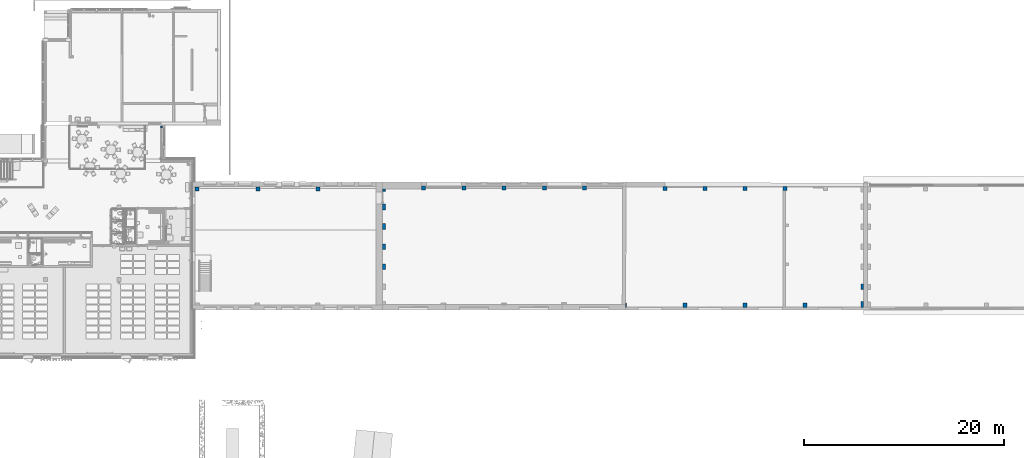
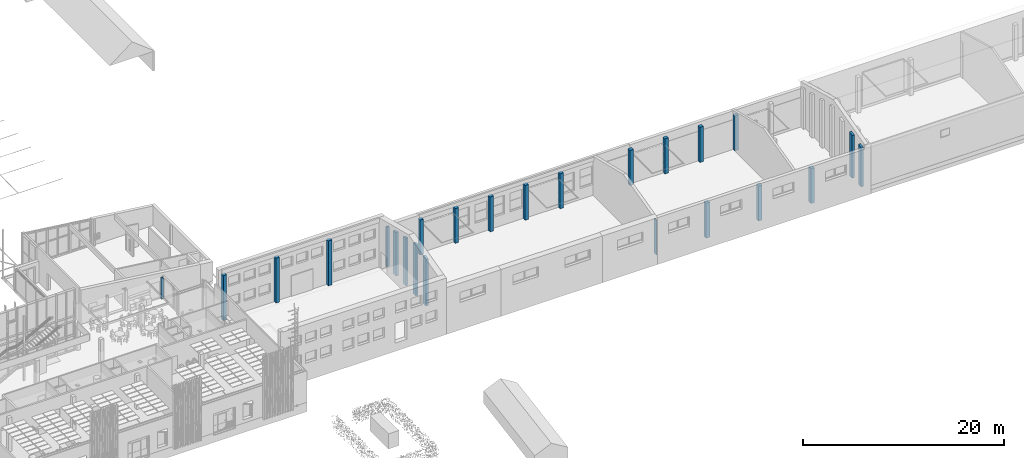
# One storey, part 20 of 301: 24 columns.
"""IFC2X3 building model written with IfcOpenShell, lengths in millimetres."""

from ifc_helpers import new_model, entity, si_unit, converted_unit, derived_unit, money_unit, direction, frame, origin_with_axes, place, context, subcontext, project, spatial, faceted_brep, material, type_object, element, save


model = new_model("IFC2X3")

# Units and contexts
model_context = context("Model", 3, precision=0.01, world=origin_with_axes(), true_north=direction((0.0, 1.0)))
body_context = subcontext(model_context, "Body", "Model", "MODEL_VIEW")
ifc_project = project(units=[si_unit("LENGTHUNIT", "METRE", prefix="MILLI"), si_unit("AREAUNIT", "SQUARE_METRE"), si_unit("VOLUMEUNIT", "CUBIC_METRE"), converted_unit("PLANEANGLEUNIT", "DEGREE", entity("IfcPlaneAngleMeasure", 0.0174532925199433), si_unit("PLANEANGLEUNIT", "RADIAN"), dimensions=[0, 0, 0, 0, 0, 0, 0]), money_unit("EUR"), converted_unit("TIMEUNIT", "Year", entity("IfcTimeMeasure", 31557600.0), si_unit("TIMEUNIT", "SECOND"), dimensions=[0, 0, 1, 0, 0, 0, 0]), si_unit("MASSUNIT", "GRAM", prefix="KILO"), si_unit("THERMODYNAMICTEMPERATUREUNIT", "DEGREE_CELSIUS"), si_unit("LUMINOUSINTENSITYUNIT", "LUMEN"), si_unit("ENERGYUNIT", "JOULE", prefix="MEGA"), derived_unit("THERMALCONDUCTANCEUNIT", [(si_unit("POWERUNIT", "WATT"), 1), (si_unit("LENGTHUNIT", "METRE"), -1), (si_unit("THERMODYNAMICTEMPERATUREUNIT", "KELVIN"), -1)]), derived_unit("SPECIFICHEATCAPACITYUNIT", [(si_unit("ENERGYUNIT", "JOULE"), 1), (si_unit("MASSUNIT", "GRAM", prefix="KILO"), -1), (si_unit("THERMODYNAMICTEMPERATUREUNIT", "KELVIN"), -1)]), derived_unit("MASSDENSITYUNIT", [(si_unit("MASSUNIT", "GRAM", prefix="KILO"), 1), (si_unit("VOLUMEUNIT", "CUBIC_METRE"), -1)])], contexts=[model_context])

# Site, building, storey
site_placement = place(None, frame((0.0, 0.0, 8650.0), z_axis=(0.0, 0.0, 1.0), x_axis=(1.0, 0.0, 0.0)))
site = spatial("IfcSite", under=ifc_project, at=site_placement, Name="43301:001:0844", CompositionType="ELEMENT")
building_placement = place(site_placement, origin_with_axes())
building = spatial("IfcBuilding", under=site, at=building_placement, Name="Kuressaare Ametikooli tuulikute mehaanikute õppekorpus", CompositionType="ELEMENT")
storey_placement = place(building_placement, origin_with_axes())
storey = spatial("IfcBuildingStorey", under=building, at=storey_placement, Name="1.korrus", CompositionType="ELEMENT", Elevation=0.0)

# Columns
ifc_material_1 = material(Name="Metall - Teras")
column_type_1 = type_object("IfcColumnType", Name="Metall - Teras 200 x 200", PredefinedType="NOTDEFINED")
column_1_placement = place(storey_placement, frame((130176.1858754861, 31778.82728576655, 0.0), z_axis=(0.0, 0.0, 1.0), x_axis=(1.0, 0.0, 0.0)))
element("IfcColumn", 1, at=column_1_placement, inside=storey, type_object=column_type_1, material=ifc_material_1, context=body_context, shape_type="Brep", body=[
    faceted_brep([(-99.99999999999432, -99.99999999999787, 2579.999999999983), (-99.99999999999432, -99.99999999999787, 0.0), (99.99999999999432, -99.99999999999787, 0.0), (99.99999999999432, -99.99999999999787, 2579.999999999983), (-99.99999999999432, 100.0000000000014, 2579.999999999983), (-99.99999999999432, 100.0000000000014, 0.0), (99.99999999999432, 100.0000000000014, 0.0), (99.99999999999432, 100.0000000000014, 2579.999999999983)], [[[0, 1, 2, 3]], [[4, 5, 1, 0]], [[2, 1, 5, 6]], [[3, 2, 6, 7]], [[4, 0, 3, 7]], [[7, 6, 5, 4]]]),
])
ifc_material_2 = material(Name="GENEERILINE - KONSTRUKTRIOON")
column_type_2 = type_object("IfcColumnType", Name="GENEERILINE - KONSTRUKTRIOON 400 x 400", PredefinedType="NOTDEFINED")
for number, where, z_axis, x_axis in (
    (2, (133734.9464416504, 25612.98866102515, 0.0), (0.0, 0.0, 1.0), (1.0, 0.0, 0.0)),
    (3, (139791.1205438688, 25612.98866102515, 0.0), (0.0, 0.0, 1.0), (1.0, 0.0, 0.0)),
    (4, (145800.0094228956, 25612.98866102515, 0.0), (0.0, 0.0, 1.0), (1.0, 0.0, 0.0)),
):
    element("IfcColumn", number, at=place(storey_placement, frame(where, z_axis=z_axis, x_axis=x_axis)), inside=storey, type_object=column_type_2, material=ifc_material_2, context=body_context, shape_type="Brep", body=[
        faceted_brep([(-199.9999999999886, -199.9999999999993, 5450.0), (-199.9999999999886, -199.9999999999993, 0.0), (200.0000000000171, -199.9999999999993, 0.0), (200.0000000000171, -199.9999999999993, 5450.0), (-199.9999999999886, 199.9999999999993, 5450.0), (-199.9999999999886, 199.9999999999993, 0.0), (200.0000000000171, 199.9999999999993, 0.0), (200.0000000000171, 199.9999999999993, 5450.0)], [[[0, 1, 2, 3]], [[4, 5, 1, 0]], [[2, 1, 5, 6]], [[3, 2, 6, 7]], [[4, 0, 3, 7]], [[7, 6, 5, 4]]]),
    ])
column_2_placement = place(storey_placement, frame((172419.9785590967, 25672.98866271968, 0.0), z_axis=(0.0, 0.0, 1.0), x_axis=(-1.0, 0.0, 0.0)))
element("IfcColumn", 5, at=column_2_placement, inside=storey, type_object=column_type_2, material=ifc_material_2, context=body_context, shape_type="Brep", body=[
    faceted_brep([(-199.9999999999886, -200.0000000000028, 4240.0), (-199.9999999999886, -200.0000000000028, 0.0), (200.0000000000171, -199.9999999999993, 0.0), (200.0000000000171, -199.9999999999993, 4240.0), (-199.9999999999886, 199.9999999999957, 4240.0), (-199.9999999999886, 199.9999999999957, 0.0), (200.0000000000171, 199.9999999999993, 0.0), (200.0000000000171, 199.9999999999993, 4240.0)], [[[0, 1, 2, 3]], [[4, 5, 1, 0]], [[2, 1, 5, 6]], [[3, 2, 6, 7]], [[4, 0, 3, 7]], [[7, 6, 5, 4]]]),
])
for number, where, z_axis, x_axis in (
    (6, (160377.3245463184, 25672.98866271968, 0.0), (0.0, 0.0, 1.0), (-1.0, 0.0, 0.0)),
    (7, (164377.3245463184, 25672.98866271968, 0.0), (0.0, 0.0, 1.0), (-1.0, 0.0, 0.0)),
    (8, (168394.9785590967, 25672.98866271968, 0.0), (0.0, 0.0, 1.0), (-1.0, 0.0, 0.0)),
):
    element("IfcColumn", number, at=place(storey_placement, frame(where, z_axis=z_axis, x_axis=x_axis)), inside=storey, type_object=column_type_2, material=ifc_material_2, context=body_context, shape_type="Brep", body=[
        faceted_brep([(-199.9999999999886, -199.9999999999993, 4240.0), (-199.9999999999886, -199.9999999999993, 0.0), (200.0000000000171, -199.9999999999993, 0.0), (200.0000000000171, -199.9999999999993, 4240.0), (-199.9999999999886, 199.9999999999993, 4240.0), (-199.9999999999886, 199.9999999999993, 0.0), (200.0000000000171, 199.9999999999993, 0.0), (200.0000000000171, 199.9999999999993, 4240.0)], [[[0, 1, 2, 3]], [[4, 5, 1, 0]], [[2, 1, 5, 6]], [[3, 2, 6, 7]], [[4, 0, 3, 7]], [[7, 6, 5, 4]]]),
    ])
column_3_placement = place(storey_placement, frame((192448.7190599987, 25638.70952208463, 0.0), z_axis=(0.0, 0.0, 1.0), x_axis=(-0.9999994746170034, 0.001025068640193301, 0.0)))
element("IfcColumn", 9, at=column_3_placement, inside=storey, type_object=column_type_2, material=ifc_material_2, context=body_context, shape_type="Brep", body=[
    faceted_brep([(-200.0000000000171, -199.9999999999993, 4270.0), (-200.0000000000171, -199.9999999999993, 0.0), (199.9999999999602, -199.9999999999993, 0.0), (199.9999999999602, -199.9999999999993, 4270.0), (-200.0000000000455, 199.9999999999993, 4270.0), (-200.0000000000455, 199.9999999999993, 0.0), (199.9999999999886, 200.0000000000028, 0.0), (199.9999999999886, 200.0000000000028, 4270.0)], [[[0, 1, 2, 3]], [[4, 5, 1, 0]], [[2, 1, 5, 6]], [[3, 2, 6, 7]], [[4, 0, 3, 7]], [[7, 6, 5, 4]]]),
])
column_4_placement = place(storey_placement, frame((188446.747325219, 25656.19373811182, 0.0), z_axis=(0.0, 0.0, 1.0), x_axis=(-0.999997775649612, 0.002109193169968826, 0.0)))
element("IfcColumn", 10, at=column_4_placement, inside=storey, type_object=column_type_2, material=ifc_material_2, context=body_context, shape_type="Brep", body=[
    faceted_brep([(-199.9999999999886, -200.0000432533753, 4270.0), (-199.9999999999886, -200.0000432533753, 0.0), (200.0000000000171, -200.0000432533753, 0.0), (200.0000000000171, -200.0000432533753, 4270.0), (-199.9999999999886, 200.0000432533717, 4270.0), (-199.9999999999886, 200.0000432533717, 0.0), (200.0000000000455, 200.0000432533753, 0.0), (200.0000000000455, 200.0000432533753, 4270.0)], [[[0, 1, 2, 3]], [[4, 5, 1, 0]], [[2, 1, 5, 6]], [[3, 2, 6, 7]], [[4, 0, 3, 7]], [[7, 6, 5, 4]]]),
])
for number, where, z_axis, x_axis in (
    (11, (184431.6717851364, 25664.61319592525, 0.0), (0.0, 0.0, 1.0), (-0.999997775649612, 0.002109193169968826, 0.0)),
    (12, (180427.1612877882, 25653.31224482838, 0.0), (0.0, 0.0, 1.0), (-0.999997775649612, 0.002109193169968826, 0.0)),
):
    element("IfcColumn", number, at=place(storey_placement, frame(where, z_axis=z_axis, x_axis=x_axis)), inside=storey, type_object=column_type_2, material=ifc_material_2, context=body_context, shape_type="Brep", body=[
        faceted_brep([(-200.0000000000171, -199.9999999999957, 4270.0), (-200.0000000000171, -199.9999999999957, 0.0), (199.9999999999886, -199.9999999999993, 0.0), (199.9999999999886, -199.9999999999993, 4270.0), (-199.9999999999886, 199.9999999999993, 4270.0), (-199.9999999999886, 199.9999999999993, 0.0), (199.9999999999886, 200.0000000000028, 0.0), (199.9999999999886, 200.0000000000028, 4270.0)], [[[0, 1, 2, 3]], [[4, 5, 1, 0]], [[2, 1, 5, 6]], [[3, 2, 6, 7]], [[4, 0, 3, 7]], [[7, 6, 5, 4]]]),
    ])
column_5_placement = place(storey_placement, frame((156341.2380981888, 25672.98866271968, 0.0), z_axis=(0.0, 0.0, 1.0), x_axis=(-1.0, 0.0, 0.0)))
element("IfcColumn", 13, at=column_5_placement, inside=storey, type_object=column_type_2, material=ifc_material_2, context=body_context, shape_type="Brep", body=[
    faceted_brep([(-199.9999999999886, -199.9999999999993, 4240.0), (-199.9999999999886, -199.9999999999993, 0.0), (200.0000000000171, -199.9999999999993, 0.0), (200.0000000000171, -199.9999999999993, 4240.0), (-199.9999999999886, 199.9999999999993, 4240.0), (-199.9999999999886, 199.9999999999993, 0.0), (200.0000000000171, 199.9999999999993, 0.0), (200.0000000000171, 199.9999999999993, 4240.0)], [[[0, 1, 2, 3]], [[4, 5, 1, 0]], [[2, 1, 5, 6]], [[3, 2, 6, 7]], [[4, 0, 3, 7]], [[7, 6, 5, 4]]]),
])
column_type_3 = type_object("IfcColumnType", Name="GENEERILINE - KONSTRUKTRIOON 600 x 275", PredefinedType="NOTDEFINED")
column_6_placement = place(storey_placement, frame((152391.1205464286, 21863.81042146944, 0.0), z_axis=(0.0, 0.0, 1.0), x_axis=(0.0, 1.0, 0.0)))
element("IfcColumn", 14, at=column_6_placement, inside=storey, type_object=column_type_3, material=ifc_material_2, context=body_context, shape_type="Brep", body=[
    faceted_brep([(300.0000041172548, 137.5002461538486, 5633.199427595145), (300.0000041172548, -137.5002461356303, 5633.199427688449), (300.0000041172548, -137.5002461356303, 0.0), (300.0000041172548, 137.5002461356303, 0.0), (-300.0000041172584, -137.5002461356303, 5780.255877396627), (-300.0000041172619, 137.5002461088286, 5780.255877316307), (-300.0000041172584, -137.5002461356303, 0.0), (-300.0000041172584, 137.5002461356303, 0.0)], [[[0, 1, 2, 3]], [[4, 1, 0, 5]], [[1, 4, 6, 2]], [[7, 3, 2, 6]], [[5, 0, 3, 7]], [[4, 5, 7, 6]]]),
])
column_7_placement = place(storey_placement, frame((152391.1205464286, 23813.81042146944, 0.0), z_axis=(0.0, 0.0, 1.0), x_axis=(0.0, 1.0, 0.0)))
element("IfcColumn", 15, at=column_7_placement, inside=storey, type_object=column_type_3, material=ifc_material_2, context=body_context, shape_type="Brep", body=[
    faceted_brep([(300.0000041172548, 137.5002463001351, 5155.265972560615), (300.0000041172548, -137.5002461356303, 5155.265972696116), (300.0000041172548, -137.5002461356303, 0.0), (300.0000041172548, 137.5002461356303, 0.0), (-300.0000041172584, -137.5002461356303, 5302.322422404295), (-300.0000041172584, 137.5002462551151, 5302.322422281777), (-300.0000041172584, -137.5002461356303, 0.0), (-300.0000041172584, 137.5002461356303, 0.0)], [[[0, 1, 2, 3]], [[4, 1, 0, 5]], [[1, 4, 6, 2]], [[7, 3, 2, 6]], [[5, 0, 3, 7]], [[4, 5, 7, 6]]]),
])
column_type_4 = type_object("IfcColumnType", Name="GENEERILINE - KONSTRUKTRIOON 550 x 275", PredefinedType="NOTDEFINED")
column_8_placement = place(storey_placement, frame((152391.1205464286, 19838.80993331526, 0.0), z_axis=(0.0, 0.0, 1.0), x_axis=(0.0, 1.0, 0.0)))
element("IfcColumn", 16, at=column_8_placement, inside=storey, type_object=column_type_4, material=ifc_material_2, context=body_context, shape_type="Brep", body=[
    faceted_brep([(275.0004922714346, 137.5002460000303, 6135.642290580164), (275.0004922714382, -137.5002461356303, 6135.642290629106), (275.0004922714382, -137.5002461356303, 0.0), (275.0004922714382, 137.5002461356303, 0.0), (-12.52285304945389, -137.5002461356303, 6206.112560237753), (-12.52285304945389, 137.5002459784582, 6206.112560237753), (-275.0004922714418, -137.5002461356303, 6142.200912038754), (-275.0004922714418, -137.5002461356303, 0.0), (-275.0004922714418, 137.5002461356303, 0.0), (-275.0004922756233, 137.5002459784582, 6142.200912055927)], [[[0, 1, 2, 3]], [[4, 1, 0, 5]], [[4, 6, 7, 2, 1]], [[8, 3, 2, 7]], [[5, 0, 3, 8, 9]], [[6, 4, 5, 9]], [[6, 9, 8, 7]]]),
])
column_9_placement = place(storey_placement, frame((152391.1205464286, 17828.80993331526, 0.0), z_axis=(0.0, 0.0, 1.0), x_axis=(0.0, 1.0, 0.0)))
element("IfcColumn", 17, at=column_9_placement, inside=storey, type_object=column_type_4, material=ifc_material_2, context=body_context, shape_type="Brep", body=[
    faceted_brep([(275.0004922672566, 137.5002459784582, 5786.700368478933), (275.0004922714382, -137.5002461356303, 5786.70036846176), (275.0004922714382, -137.5002461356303, 0.0), (275.0004922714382, 137.5002461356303, 0.0), (-275.0004922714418, -137.5002461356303, 5652.77860077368), (-275.0004922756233, 137.5002459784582, 5652.778600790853), (-275.0004922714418, -137.5002461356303, 0.0), (-275.0004922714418, 137.5002461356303, 0.0)], [[[0, 1, 2, 3]], [[4, 1, 0, 5]], [[1, 4, 6, 2]], [[7, 3, 2, 6]], [[5, 0, 3, 7]], [[4, 5, 7, 6]]]),
])
column_type_5 = type_object("IfcColumnType", Name="GENEERILINE - KONSTRUKTRIOON 250 x 275", PredefinedType="NOTDEFINED")
column_10_placement = place(storey_placement, frame((152391.1205464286, 25447.98866269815, 0.0), z_axis=(0.0, 0.0, 1.0), x_axis=(0.0, 1.0, 0.0)))
element("IfcColumn", 18, at=column_10_placement, inside=storey, type_object=column_type_5, material=ifc_material_2, context=body_context, shape_type="Brep", body=[
    faceted_brep([(125.0000000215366, 137.5002464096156, 4797.630025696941), (125.0000000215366, -137.5002461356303, 4797.630025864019), (125.0000000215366, -137.5002461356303, 0.0), (125.0000000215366, 137.5002461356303, 0.0), (-125.0000000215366, -137.5002461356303, 4858.903545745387), (-125.0000000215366, 137.5002463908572, 4858.903545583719), (-125.0000000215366, -137.5002461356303, 0.0), (-125.0000000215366, 137.5002461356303, 0.0)], [[[0, 1, 2, 3]], [[4, 1, 0, 5]], [[1, 4, 6, 2]], [[7, 3, 2, 6]], [[5, 0, 3, 7]], [[4, 5, 7, 6]]]),
])
column_type_6 = type_object("IfcColumnType", Name="GENEERILINE - KONSTRUKTRIOON 550 x 265", PredefinedType="NOTDEFINED")
column_11_placement = place(storey_placement, frame((200131.1202997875, 15821.43401444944, 0.0), z_axis=(0.0, 0.0, 1.0), x_axis=(0.0, 1.0, 0.0)))
element("IfcColumn", 19, at=column_11_placement, inside=storey, type_object=column_type_6, material=ifc_material_2, context=body_context, shape_type="Brep", body=[
    faceted_brep([(275.0000009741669, 132.5000005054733, 5297.916884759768), (275.0000009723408, -132.500000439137, 5297.916884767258), (275.0000009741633, -132.5000005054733, 0.0), (275.0000009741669, 132.5000005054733, 0.0), (-275.000000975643, -132.500000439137, 5163.99535633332), (-275.0000009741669, 132.5000005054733, 5163.995356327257), (-275.0000009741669, -132.5000005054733, 0.0), (-275.0000009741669, 132.5000005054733, 0.0)], [[[0, 1, 2, 3]], [[4, 1, 0, 5]], [[1, 4, 6, 2]], [[3, 2, 6, 7]], [[5, 0, 3, 7]], [[4, 5, 7, 6]]]),
])
column_type_7 = type_object("IfcColumnType", Name="GENEERILINE - KONSTRUKTRIOON 570 x 250", PredefinedType="NOTDEFINED")
column_12_placement = place(storey_placement, frame((200138.6202552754, 14062.65773139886, 0.0), z_axis=(0.0, 0.0, 1.0), x_axis=(0.0, 1.0, 0.0)))
element("IfcColumn", 20, at=column_12_placement, inside=storey, type_object=column_type_7, material=ifc_material_2, context=body_context, shape_type="Brep", body=[
    faceted_brep([(285.0000144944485, 125.0000450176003, 4872.100902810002), (285.0000144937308, -125.0000449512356, 4872.100902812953), (285.0000144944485, -125.0000450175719, 0.0), (285.0000144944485, 125.0000450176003, 0.0), (-285.0000144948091, -125.0000449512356, 4733.309494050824), (-285.0000144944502, 125.0000450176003, 4733.309494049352), (-285.0000144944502, -125.0000450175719, 0.0), (-285.0000144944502, 125.0000450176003, 0.0)], [[[0, 1, 2, 3]], [[4, 1, 0, 5]], [[1, 4, 6, 2]], [[3, 2, 6, 7]], [[5, 0, 3, 7]], [[4, 5, 7, 6]]]),
])
column_type_8 = type_object("IfcColumnType", Name="GENEERILINE - KONSTRUKTRIOON 420 x 420", PredefinedType="NOTDEFINED")
column_13_placement = place(storey_placement, frame((194435.3923386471, 13987.65784554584, 0.0), z_axis=(0.0, 0.0, 1.0), x_axis=(-1.0, 0.0, 0.0)))
element("IfcColumn", 21, at=column_13_placement, inside=storey, type_object=column_type_8, material=ifc_material_2, context=body_context, shape_type="Brep", body=[
    faceted_brep([(-210.0000019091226, -210.0001286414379, 4250.0), (-210.0000019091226, -210.0001286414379, 0.0), (210.0000019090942, -210.0001286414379, 0.0), (210.0000019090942, -210.0001286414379, 4250.0), (-210.0000019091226, 210.0001286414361, 4250.0), (-210.0000019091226, 210.0001286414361, 0.0), (210.0000019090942, 210.0001286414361, 0.0), (210.0000019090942, 210.0001286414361, 4250.0)], [[[0, 1, 2, 3]], [[4, 5, 1, 0]], [[2, 1, 5, 6]], [[3, 2, 6, 7]], [[4, 0, 3, 7]], [[7, 6, 5, 4]]]),
])
column_type_9 = type_object("IfcColumnType", Name="GENEERILINE - KONSTRUKTRIOON 420 x 430", PredefinedType="NOTDEFINED")
for number, where, z_axis, x_axis in (
    (22, (182434.7772264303, 13992.65772367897, 0.0), (0.0, 0.0, 1.0), (-1.0, 0.0, 0.0)),
    (23, (188434.7542879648, 13976.06673035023, 0.0), (0.0, 0.0, 1.0), (-1.0, 0.0, 0.0)),
):
    element("IfcColumn", number, at=place(storey_placement, frame(where, z_axis=z_axis, x_axis=x_axis)), inside=storey, type_object=column_type_9, material=ifc_material_2, context=body_context, shape_type="Brep", body=[
        faceted_brep([(-210.0000002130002, -215.0000067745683, 4250.0), (-210.0000002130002, -215.0000067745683, 0.0), (210.0000002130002, -215.0000067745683, 0.0), (210.0000002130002, -215.0000067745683, 4250.0), (-210.0000002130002, 215.0000067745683, 4250.0), (-210.0000002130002, 215.0000067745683, 0.0), (210.0000002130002, 215.0000067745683, 0.0), (210.0000002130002, 215.0000067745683, 4250.0)], [[[0, 1, 2, 3]], [[4, 5, 1, 0]], [[2, 1, 5, 6]], [[3, 2, 6, 7]], [[4, 0, 3, 7]], [[7, 6, 5, 4]]]),
    ])
column_type_10 = type_object("IfcColumnType", Name="GENEERILINE - KONSTRUKTRIOON 95 x 430", PredefinedType="NOTDEFINED")
column_14_placement = place(storey_placement, frame((176552.2772139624, 13992.65772367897, 0.0), z_axis=(0.0, 0.0, 1.0), x_axis=(-1.0, 0.0, 0.0)))
element("IfcColumn", 24, at=column_14_placement, inside=storey, type_object=column_type_10, material=ifc_material_2, context=body_context, shape_type="Brep", body=[
    faceted_brep([(-47.50001268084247, -215.0000067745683, 4200.0), (-47.50001268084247, -215.0000067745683, 0.0), (47.50001268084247, -215.0000067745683, 0.0), (47.50001268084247, -215.0000067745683, 4200.0), (-47.50001268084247, 215.0000067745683, 4200.0), (-47.50001268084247, 215.0000067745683, 0.0), (47.50001268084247, 215.0000067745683, 0.0), (47.50001268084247, 215.0000067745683, 4200.0)], [[[0, 1, 2, 3]], [[4, 5, 1, 0]], [[2, 1, 5, 6]], [[3, 2, 6, 7]], [[4, 0, 3, 7]], [[7, 6, 5, 4]]]),
])

save(model, "model.ifc")
